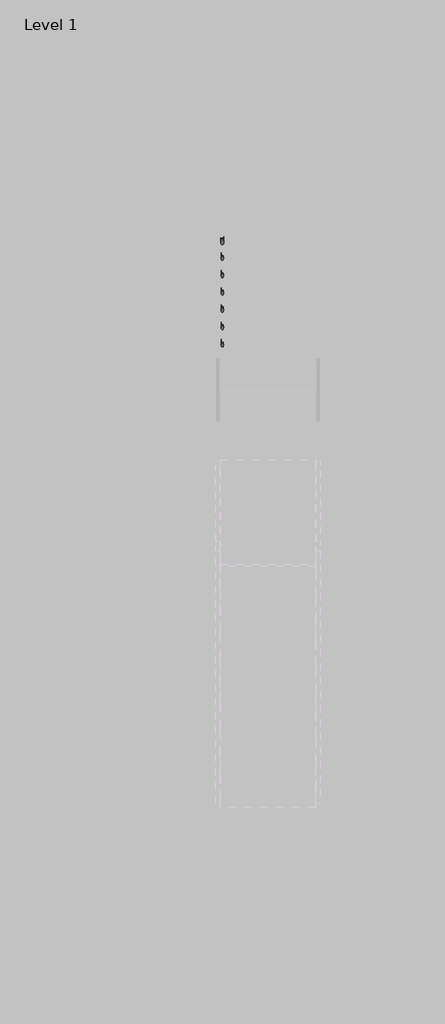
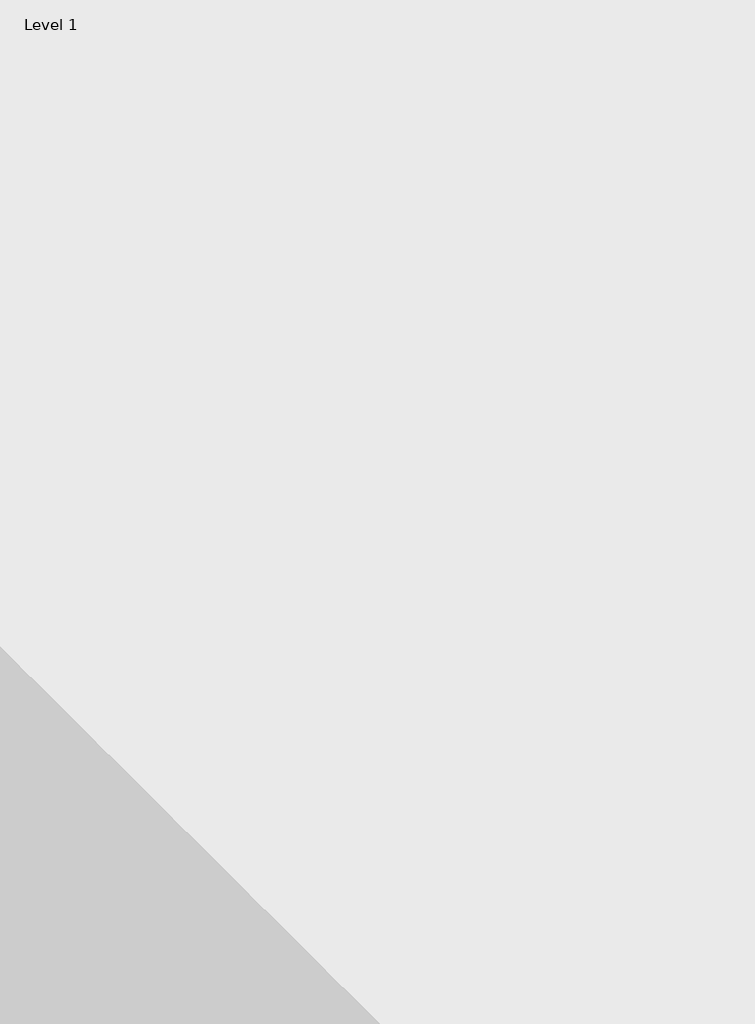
# One storey, part 23 of 27: 1 railing.
"""IFC4 building model written with IfcOpenShell, lengths in millimetres."""

from ifc_helpers import new_model, si_unit, frame, origin, place, context, project, spatial, circle_curve, ellipse_curve, element, save
from ifc_brep_helpers import plane_surface, cylinder_surface, advanced_brep

model = new_model("IFC4")

# Units and contexts
model_context = context("Model", 3, world=origin())
ifc_project = project(units=[si_unit("LENGTHUNIT", "METRE", prefix="MILLI")], contexts=[model_context])

# Site, building, storey
site = spatial("IfcSite", under=ifc_project)
building = spatial("IfcBuilding", under=site)
storey = spatial("IfcBuildingStorey", under=building, Name="Level 1", Elevation=0.0)

# Railing
placement = place(None, origin())
element("IfcRailing", 1, ObjectType="900mm Pipe", at=placement, inside=storey, context=model_context, shape_type="AdvancedBrep", body=[
    advanced_brep(
    [(2574.0567657, 6000.5392059, 1049.1094102), (2614.0567657, 6000.5392059, 1049.1094102), (2574.0567657, 3244.779188, 2780.0), (2614.0567657, 3244.779188, 2780.0), (2574.0567657, 2319.779188, 2780.0), (2614.0567657, 2319.779188, 2780.0), (2574.0567657, 2039.9015087, 2955.790939), (2614.0567657, 2039.9015087, 2955.790939), (2574.0567657, -699.4607941, 4676.3821375), (2614.0567657, -699.4607941, 4676.3821375)],
    [
        (0, 1, ellipse_curve(frame((2594.0567657, 6000.5392059, 1049.1094102), z_axis=(0.0, 1.0, 0.0), x_axis=(0.0, 0.0, -1.0)), 23.6178625, 20.0)),
        (1, 0, ellipse_curve(frame((2594.0567657, 6000.5392059, 1049.1094102), z_axis=(0.0, 1.0, 0.0), x_axis=(0.0, 0.0, -1.0)), 23.6178625, 20.0)),
        (0, 2),
        (2, 3, ellipse_curve(frame((2594.0567657, 3244.779188, 2780.0), z_axis=(0.0, 0.9609413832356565, -0.2767519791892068), x_axis=(0.0, -0.2767519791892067, -0.9609413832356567)), 20.812924, 20.0)),
        (3, 1),
        (3, 2, ellipse_curve(frame((2594.0567657, 3244.779188, 2780.0), z_axis=(0.0, 0.9609413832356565, -0.2767519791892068), x_axis=(0.0, -0.2767519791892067, -0.9609413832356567)), 20.812924, 20.0)),
        (2, 4),
        (4, 5, ellipse_curve(frame((2594.0567657, 2319.779188, 2780.0), z_axis=(0.0, 0.9609413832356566, -0.2767519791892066), x_axis=(0.0, 0.2767519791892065, 0.9609413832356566)), 20.812924, 20.0)),
        (5, 3),
        (5, 4, ellipse_curve(frame((2594.0567657, 2319.779188, 2780.0), z_axis=(0.0, 0.9609413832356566, -0.2767519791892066), x_axis=(0.0, 0.2767519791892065, 0.9609413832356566)), 20.812924, 20.0)),
        (4, 6),
        (6, 7, circle_curve(frame((2594.0567657, 2039.9015087, 2955.790939), z_axis=(0.0, 0.846816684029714, -0.5318848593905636), x_axis=(1.0, 0.0, 0.0)), 20.0)),
        (7, 5),
        (7, 6, circle_curve(frame((2594.0567657, 2039.9015087, 2955.790939), z_axis=(0.0, 0.846816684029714, -0.5318848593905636), x_axis=(1.0, 0.0, 0.0)), 20.0)),
        (8, 9, ellipse_curve(frame((2594.0567657, -699.4607941, 4676.3821375), z_axis=(0.0, -1.0, 0.0), x_axis=(0.0, 0.0, -1.0)), 23.6178625, 20.0)),
        (9, 8, ellipse_curve(frame((2594.0567657, -699.4607941, 4676.3821375), z_axis=(0.0, -1.0, 0.0), x_axis=(0.0, 0.0, -1.0)), 23.6178625, 20.0)),
        (6, 8),
        (9, 7),
    ],
    [
        plane_surface(frame((2594.0567657, 6000.5392059, 1072.7272727), z_axis=(0.0, 1.0, 0.0), x_axis=(0.0, 0.0, -1.0))),
        cylinder_surface(frame((2594.0567657, 5989.9015087, 1055.790939), z_axis=(0.0, 0.8468166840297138, -0.5318848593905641), x_axis=(1.0, 0.0, 0.0)), 20.0),
        cylinder_surface(frame((2594.0567657, 3250.5392059, 2780.0), z_axis=(0.0, 1.0, 0.0), x_axis=(1.0, 0.0, 0.0)), 20.0),
        cylinder_surface(frame((2594.0567657, 2314.9015087, 2783.0636663), z_axis=(0.0, 0.846816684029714, -0.5318848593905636), x_axis=(1.0, 0.0, 0.0)), 20.0),
        plane_surface(frame((2594.0567657, -699.4607941, 4700.0), z_axis=(0.0, -1.0, 0.0), x_axis=(0.0, 0.0, -1.0))),
        cylinder_surface(frame((2594.0567657, 2039.9015087, 2955.790939), z_axis=(0.0, 0.8468166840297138, -0.5318848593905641), x_axis=(1.0, 0.0, 0.0)), 20.0),
    ],
    [
        (0, [[1, 2]]),
        (1, [[-1, 3, 4, 5]]),
        (1, [[-2, -5, 6, -3]]),
        (2, [[-4, 7, 8, 9]]),
        (2, [[-6, -9, 10, -7]]),
        (3, [[-8, 11, 12, 13]]),
        (3, [[-10, -13, 14, -11]]),
        (4, [[15, 16]]),
        (5, [[-12, 17, -16, 18]]),
        (5, [[-14, -18, -15, -17]]),
    ],
),
    advanced_brep(
    [(2609.0567657, 6000.5392059, 930.0138759), (2579.0567657, 6000.5392059, 930.0138759), (2609.0567657, 3250.5392059, 2657.2866031), (2579.0567657, 3250.5392059, 2657.2866031)],
    [
        (0, 1, ellipse_curve(frame((2594.0567657, 6000.5392059, 930.0138759), z_axis=(0.0, 1.0, 0.0), x_axis=(0.0, 0.0, -1.0)), 17.7133969, 15.0)),
        (1, 0, ellipse_curve(frame((2594.0567657, 6000.5392059, 930.0138759), z_axis=(0.0, 1.0, 0.0), x_axis=(0.0, 0.0, -1.0)), 17.7133969, 15.0)),
        (2, 3, ellipse_curve(frame((2594.0567657, 3250.5392059, 2657.2866031), z_axis=(0.0, -1.0, 0.0), x_axis=(0.0, 0.0, -1.0)), 17.7133969, 15.0)),
        (3, 2, ellipse_curve(frame((2594.0567657, 3250.5392059, 2657.2866031), z_axis=(0.0, -1.0, 0.0), x_axis=(0.0, 0.0, -1.0)), 17.7133969, 15.0)),
        (0, 2),
        (3, 1),
    ],
    [
        plane_surface(frame((2594.0567657, 6000.5392059, 947.7272727), z_axis=(0.0, 1.0, 0.0), x_axis=(0.0, 0.0, -1.0))),
        plane_surface(frame((2594.0567657, 3250.5392059, 2675.0), z_axis=(0.0, -1.0, 0.0), x_axis=(0.0, 0.0, -1.0))),
        cylinder_surface(frame((2594.0567657, 5992.560933, 935.0250225), z_axis=(0.0, 0.8468166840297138, -0.5318848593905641), x_axis=(-1.0, 0.0, 0.0)), 15.0),
    ],
    [
        (0, [[1, 2]]),
        (1, [[3, 4]]),
        (2, [[-1, 5, -4, 6]]),
        (2, [[-2, -6, -3, -5]]),
    ],
),
    advanced_brep(
    [(2609.0567657, 3250.5392059, 2660.0), (2579.0567657, 3250.5392059, 2660.0), (2609.0567657, 2321.2191925, 2660.0), (2579.0567657, 2321.2191925, 2660.0), (2609.0567657, 2050.5392059, 2830.0138759), (2579.0567657, 2050.5392059, 2830.0138759)],
    [
        (0, 1, circle_curve(frame((2594.0567657, 3250.5392059, 2660.0), z_axis=(0.0, 1.0, 0.0), x_axis=(-1.0, 0.0, 0.0)), 15.0)),
        (1, 0, circle_curve(frame((2594.0567657, 3250.5392059, 2660.0), z_axis=(0.0, 1.0, 0.0), x_axis=(-1.0, 0.0, 0.0)), 15.0)),
        (0, 2),
        (2, 3, ellipse_curve(frame((2594.0567657, 2321.2191925, 2660.0), z_axis=(0.0, 0.9609413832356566, -0.2767519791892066), x_axis=(0.0, 0.27675197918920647, 0.9609413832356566)), 15.609693, 15.0)),
        (3, 1),
        (3, 2, ellipse_curve(frame((2594.0567657, 2321.2191925, 2660.0), z_axis=(0.0, 0.9609413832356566, -0.2767519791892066), x_axis=(0.0, 0.27675197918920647, 0.9609413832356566)), 15.609693, 15.0)),
        (4, 5, ellipse_curve(frame((2594.0567657, 2050.5392059, 2830.0138759), z_axis=(0.0, -1.0, 0.0), x_axis=(0.0, 0.0, -1.0)), 17.7133969, 15.0)),
        (5, 4, ellipse_curve(frame((2594.0567657, 2050.5392059, 2830.0138759), z_axis=(0.0, -1.0, 0.0), x_axis=(0.0, 0.0, -1.0)), 17.7133969, 15.0)),
        (2, 4),
        (5, 3),
    ],
    [
        plane_surface(frame((2594.0567657, 3250.5392059, 2675.0), z_axis=(0.0, 1.0, 0.0), x_axis=(0.0, 0.0, -1.0))),
        cylinder_surface(frame((2594.0567657, 3250.5392059, 2660.0), z_axis=(0.0, 1.0, 0.0), x_axis=(-1.0, 0.0, 0.0)), 15.0),
        plane_surface(frame((2594.0567657, 2050.5392059, 2847.7272727), z_axis=(0.0, -1.0, 0.0), x_axis=(0.0, 0.0, -1.0))),
        cylinder_surface(frame((2594.0567657, 2317.560933, 2662.2977497), z_axis=(0.0, 0.846816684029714, -0.5318848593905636), x_axis=(-1.0, 0.0, 0.0)), 15.0),
    ],
    [
        (0, [[1, 2]]),
        (1, [[-1, 3, 4, 5]]),
        (1, [[-2, -5, 6, -3]]),
        (2, [[7, 8]]),
        (3, [[-4, 9, -8, 10]]),
        (3, [[-6, -10, -7, -9]]),
    ],
),
    advanced_brep(
    [(2609.0567657, 2050.5392059, 2830.0138759), (2579.0567657, 2050.5392059, 2830.0138759), (2609.0567657, -699.4607941, 4557.2866031), (2579.0567657, -699.4607941, 4557.2866031)],
    [
        (0, 1, ellipse_curve(frame((2594.0567657, 2050.5392059, 2830.0138759), z_axis=(0.0, 1.0, 0.0), x_axis=(0.0, 0.0, -1.0)), 17.7133969, 15.0)),
        (1, 0, ellipse_curve(frame((2594.0567657, 2050.5392059, 2830.0138759), z_axis=(0.0, 1.0, 0.0), x_axis=(0.0, 0.0, -1.0)), 17.7133969, 15.0)),
        (2, 3, ellipse_curve(frame((2594.0567657, -699.4607941, 4557.2866031), z_axis=(0.0, -1.0, 0.0), x_axis=(0.0, 0.0, -1.0)), 17.7133969, 15.0)),
        (3, 2, ellipse_curve(frame((2594.0567657, -699.4607941, 4557.2866031), z_axis=(0.0, -1.0, 0.0), x_axis=(0.0, 0.0, -1.0)), 17.7133969, 15.0)),
        (0, 2),
        (3, 1),
    ],
    [
        plane_surface(frame((2594.0567657, 2050.5392059, 2847.7272727), z_axis=(0.0, 1.0, 0.0), x_axis=(0.0, 0.0, -1.0))),
        plane_surface(frame((2594.0567657, -699.4607941, 4575.0), z_axis=(0.0, -1.0, 0.0), x_axis=(0.0, 0.0, -1.0))),
        cylinder_surface(frame((2594.0567657, 2042.560933, 2835.0250225), z_axis=(0.0, 0.8468166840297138, -0.531884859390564), x_axis=(-1.0, 0.0, 0.0)), 15.0),
    ],
    [
        (0, [[1, 2]]),
        (1, [[3, 4]]),
        (2, [[-1, 5, -4, 6]]),
        (2, [[-2, -6, -3, -5]]),
    ],
),
    advanced_brep(
    [(2609.0567657, 6000.5392059, 805.0138759), (2579.0567657, 6000.5392059, 805.0138759), (2609.0567657, 3250.5392059, 2532.2866031), (2579.0567657, 3250.5392059, 2532.2866031)],
    [
        (0, 1, ellipse_curve(frame((2594.0567657, 6000.5392059, 805.0138759), z_axis=(0.0, 1.0, 0.0), x_axis=(0.0, 0.0, -1.0)), 17.7133969, 15.0)),
        (1, 0, ellipse_curve(frame((2594.0567657, 6000.5392059, 805.0138759), z_axis=(0.0, 1.0, 0.0), x_axis=(0.0, 0.0, -1.0)), 17.7133969, 15.0)),
        (2, 3, ellipse_curve(frame((2594.0567657, 3250.5392059, 2532.2866031), z_axis=(0.0, -1.0, 0.0), x_axis=(0.0, 0.0, -1.0)), 17.7133969, 15.0)),
        (3, 2, ellipse_curve(frame((2594.0567657, 3250.5392059, 2532.2866031), z_axis=(0.0, -1.0, 0.0), x_axis=(0.0, 0.0, -1.0)), 17.7133969, 15.0)),
        (0, 2),
        (3, 1),
    ],
    [
        plane_surface(frame((2594.0567657, 6000.5392059, 822.7272727), z_axis=(0.0, 1.0, 0.0), x_axis=(0.0, 0.0, -1.0))),
        plane_surface(frame((2594.0567657, 3250.5392059, 2550.0), z_axis=(0.0, -1.0, 0.0), x_axis=(0.0, 0.0, -1.0))),
        cylinder_surface(frame((2594.0567657, 5992.560933, 810.0250225), z_axis=(0.0, 0.8468166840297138, -0.5318848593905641), x_axis=(-1.0, 0.0, 0.0)), 15.0),
    ],
    [
        (0, [[1, 2]]),
        (1, [[3, 4]]),
        (2, [[-1, 5, -4, 6]]),
        (2, [[-2, -6, -3, -5]]),
    ],
),
    advanced_brep(
    [(2609.0567657, 3250.5392059, 2535.0), (2579.0567657, 3250.5392059, 2535.0), (2609.0567657, 2321.2191925, 2535.0), (2579.0567657, 2321.2191925, 2535.0), (2609.0567657, 2050.5392059, 2705.0138759), (2579.0567657, 2050.5392059, 2705.0138759)],
    [
        (0, 1, circle_curve(frame((2594.0567657, 3250.5392059, 2535.0), z_axis=(0.0, 1.0, 0.0), x_axis=(-1.0, 0.0, 0.0)), 15.0)),
        (1, 0, circle_curve(frame((2594.0567657, 3250.5392059, 2535.0), z_axis=(0.0, 1.0, 0.0), x_axis=(-1.0, 0.0, 0.0)), 15.0)),
        (0, 2),
        (2, 3, ellipse_curve(frame((2594.0567657, 2321.2191925, 2535.0), z_axis=(0.0, 0.9609413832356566, -0.2767519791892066), x_axis=(0.0, 0.27675197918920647, 0.9609413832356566)), 15.609693, 15.0)),
        (3, 1),
        (3, 2, ellipse_curve(frame((2594.0567657, 2321.2191925, 2535.0), z_axis=(0.0, 0.9609413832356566, -0.2767519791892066), x_axis=(0.0, 0.27675197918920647, 0.9609413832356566)), 15.609693, 15.0)),
        (4, 5, ellipse_curve(frame((2594.0567657, 2050.5392059, 2705.0138759), z_axis=(0.0, -1.0, 0.0), x_axis=(0.0, 0.0, -1.0)), 17.7133969, 15.0)),
        (5, 4, ellipse_curve(frame((2594.0567657, 2050.5392059, 2705.0138759), z_axis=(0.0, -1.0, 0.0), x_axis=(0.0, 0.0, -1.0)), 17.7133969, 15.0)),
        (2, 4),
        (5, 3),
    ],
    [
        plane_surface(frame((2594.0567657, 3250.5392059, 2550.0), z_axis=(0.0, 1.0, 0.0), x_axis=(0.0, 0.0, -1.0))),
        cylinder_surface(frame((2594.0567657, 3250.5392059, 2535.0), z_axis=(0.0, 1.0, 0.0), x_axis=(-1.0, 0.0, 0.0)), 15.0),
        plane_surface(frame((2594.0567657, 2050.5392059, 2722.7272727), z_axis=(0.0, -1.0, 0.0), x_axis=(0.0, 0.0, -1.0))),
        cylinder_surface(frame((2594.0567657, 2317.560933, 2537.2977497), z_axis=(0.0, 0.846816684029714, -0.5318848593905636), x_axis=(-1.0, 0.0, 0.0)), 15.0),
    ],
    [
        (0, [[1, 2]]),
        (1, [[-1, 3, 4, 5]]),
        (1, [[-2, -5, 6, -3]]),
        (2, [[7, 8]]),
        (3, [[-4, 9, -8, 10]]),
        (3, [[-6, -10, -7, -9]]),
    ],
),
    advanced_brep(
    [(2609.0567657, 2050.5392059, 2705.0138759), (2579.0567657, 2050.5392059, 2705.0138759), (2609.0567657, -699.4607941, 4432.2866031), (2579.0567657, -699.4607941, 4432.2866031)],
    [
        (0, 1, ellipse_curve(frame((2594.0567657, 2050.5392059, 2705.0138759), z_axis=(0.0, 1.0, 0.0), x_axis=(0.0, 0.0, -1.0)), 17.7133969, 15.0)),
        (1, 0, ellipse_curve(frame((2594.0567657, 2050.5392059, 2705.0138759), z_axis=(0.0, 1.0, 0.0), x_axis=(0.0, 0.0, -1.0)), 17.7133969, 15.0)),
        (2, 3, ellipse_curve(frame((2594.0567657, -699.4607941, 4432.2866031), z_axis=(0.0, -1.0, 0.0), x_axis=(0.0, 0.0, -1.0)), 17.7133969, 15.0)),
        (3, 2, ellipse_curve(frame((2594.0567657, -699.4607941, 4432.2866031), z_axis=(0.0, -1.0, 0.0), x_axis=(0.0, 0.0, -1.0)), 17.7133969, 15.0)),
        (0, 2),
        (3, 1),
    ],
    [
        plane_surface(frame((2594.0567657, 2050.5392059, 2722.7272727), z_axis=(0.0, 1.0, 0.0), x_axis=(0.0, 0.0, -1.0))),
        plane_surface(frame((2594.0567657, -699.4607941, 4450.0), z_axis=(0.0, -1.0, 0.0), x_axis=(0.0, 0.0, -1.0))),
        cylinder_surface(frame((2594.0567657, 2042.560933, 2710.0250225), z_axis=(0.0, 0.8468166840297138, -0.531884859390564), x_axis=(-1.0, 0.0, 0.0)), 15.0),
    ],
    [
        (0, [[1, 2]]),
        (1, [[3, 4]]),
        (2, [[-1, 5, -4, 6]]),
        (2, [[-2, -6, -3, -5]]),
    ],
),
    advanced_brep(
    [(2609.0567657, 6000.5392059, 680.0138759), (2579.0567657, 6000.5392059, 680.0138759), (2609.0567657, 3250.5392059, 2407.2866031), (2579.0567657, 3250.5392059, 2407.2866031)],
    [
        (0, 1, ellipse_curve(frame((2594.0567657, 6000.5392059, 680.0138759), z_axis=(0.0, 1.0, 0.0), x_axis=(0.0, 0.0, -1.0)), 17.7133969, 15.0)),
        (1, 0, ellipse_curve(frame((2594.0567657, 6000.5392059, 680.0138759), z_axis=(0.0, 1.0, 0.0), x_axis=(0.0, 0.0, -1.0)), 17.7133969, 15.0)),
        (2, 3, ellipse_curve(frame((2594.0567657, 3250.5392059, 2407.2866031), z_axis=(0.0, -1.0, 0.0), x_axis=(0.0, 0.0, -1.0)), 17.7133969, 15.0)),
        (3, 2, ellipse_curve(frame((2594.0567657, 3250.5392059, 2407.2866031), z_axis=(0.0, -1.0, 0.0), x_axis=(0.0, 0.0, -1.0)), 17.7133969, 15.0)),
        (0, 2),
        (3, 1),
    ],
    [
        plane_surface(frame((2594.0567657, 6000.5392059, 697.7272727), z_axis=(0.0, 1.0, 0.0), x_axis=(0.0, 0.0, -1.0))),
        plane_surface(frame((2594.0567657, 3250.5392059, 2425.0), z_axis=(0.0, -1.0, 0.0), x_axis=(0.0, 0.0, -1.0))),
        cylinder_surface(frame((2594.0567657, 5992.560933, 685.0250225), z_axis=(0.0, 0.8468166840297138, -0.5318848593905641), x_axis=(-1.0, 0.0, 0.0)), 15.0),
    ],
    [
        (0, [[1, 2]]),
        (1, [[3, 4]]),
        (2, [[-1, 5, -4, 6]]),
        (2, [[-2, -6, -3, -5]]),
    ],
),
    advanced_brep(
    [(2609.0567657, 3250.5392059, 2410.0), (2579.0567657, 3250.5392059, 2410.0), (2609.0567657, 2321.2191925, 2410.0), (2579.0567657, 2321.2191925, 2410.0), (2609.0567657, 2050.5392059, 2580.0138759), (2579.0567657, 2050.5392059, 2580.0138759)],
    [
        (0, 1, circle_curve(frame((2594.0567657, 3250.5392059, 2410.0), z_axis=(0.0, 1.0, 0.0), x_axis=(-1.0, 0.0, 0.0)), 15.0)),
        (1, 0, circle_curve(frame((2594.0567657, 3250.5392059, 2410.0), z_axis=(0.0, 1.0, 0.0), x_axis=(-1.0, 0.0, 0.0)), 15.0)),
        (0, 2),
        (2, 3, ellipse_curve(frame((2594.0567657, 2321.2191925, 2410.0), z_axis=(0.0, 0.9609413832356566, -0.2767519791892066), x_axis=(0.0, 0.27675197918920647, 0.9609413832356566)), 15.609693, 15.0)),
        (3, 1),
        (3, 2, ellipse_curve(frame((2594.0567657, 2321.2191925, 2410.0), z_axis=(0.0, 0.9609413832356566, -0.2767519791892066), x_axis=(0.0, 0.27675197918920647, 0.9609413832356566)), 15.609693, 15.0)),
        (4, 5, ellipse_curve(frame((2594.0567657, 2050.5392059, 2580.0138759), z_axis=(0.0, -1.0, 0.0), x_axis=(0.0, 0.0, -1.0)), 17.7133969, 15.0)),
        (5, 4, ellipse_curve(frame((2594.0567657, 2050.5392059, 2580.0138759), z_axis=(0.0, -1.0, 0.0), x_axis=(0.0, 0.0, -1.0)), 17.7133969, 15.0)),
        (2, 4),
        (5, 3),
    ],
    [
        plane_surface(frame((2594.0567657, 3250.5392059, 2425.0), z_axis=(0.0, 1.0, 0.0), x_axis=(0.0, 0.0, -1.0))),
        cylinder_surface(frame((2594.0567657, 3250.5392059, 2410.0), z_axis=(0.0, 1.0, 0.0), x_axis=(-1.0, 0.0, 0.0)), 15.0),
        plane_surface(frame((2594.0567657, 2050.5392059, 2597.7272727), z_axis=(0.0, -1.0, 0.0), x_axis=(0.0, 0.0, -1.0))),
        cylinder_surface(frame((2594.0567657, 2317.560933, 2412.2977497), z_axis=(0.0, 0.846816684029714, -0.5318848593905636), x_axis=(-1.0, 0.0, 0.0)), 15.0),
    ],
    [
        (0, [[1, 2]]),
        (1, [[-1, 3, 4, 5]]),
        (1, [[-2, -5, 6, -3]]),
        (2, [[7, 8]]),
        (3, [[-4, 9, -8, 10]]),
        (3, [[-6, -10, -7, -9]]),
    ],
),
    advanced_brep(
    [(2609.0567657, 2050.5392059, 2580.0138759), (2579.0567657, 2050.5392059, 2580.0138759), (2609.0567657, -699.4607941, 4307.2866031), (2579.0567657, -699.4607941, 4307.2866031)],
    [
        (0, 1, ellipse_curve(frame((2594.0567657, 2050.5392059, 2580.0138759), z_axis=(0.0, 1.0, 0.0), x_axis=(0.0, 0.0, -1.0)), 17.7133969, 15.0)),
        (1, 0, ellipse_curve(frame((2594.0567657, 2050.5392059, 2580.0138759), z_axis=(0.0, 1.0, 0.0), x_axis=(0.0, 0.0, -1.0)), 17.7133969, 15.0)),
        (2, 3, ellipse_curve(frame((2594.0567657, -699.4607941, 4307.2866031), z_axis=(0.0, -1.0, 0.0), x_axis=(0.0, 0.0, -1.0)), 17.7133969, 15.0)),
        (3, 2, ellipse_curve(frame((2594.0567657, -699.4607941, 4307.2866031), z_axis=(0.0, -1.0, 0.0), x_axis=(0.0, 0.0, -1.0)), 17.7133969, 15.0)),
        (0, 2),
        (3, 1),
    ],
    [
        plane_surface(frame((2594.0567657, 2050.5392059, 2597.7272727), z_axis=(0.0, 1.0, 0.0), x_axis=(0.0, 0.0, -1.0))),
        plane_surface(frame((2594.0567657, -699.4607941, 4325.0), z_axis=(0.0, -1.0, 0.0), x_axis=(0.0, 0.0, -1.0))),
        cylinder_surface(frame((2594.0567657, 2042.560933, 2585.0250225), z_axis=(0.0, 0.8468166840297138, -0.531884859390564), x_axis=(-1.0, 0.0, 0.0)), 15.0),
    ],
    [
        (0, [[1, 2]]),
        (1, [[3, 4]]),
        (2, [[-1, 5, -4, 6]]),
        (2, [[-2, -6, -3, -5]]),
    ],
),
    advanced_brep(
    [(2609.0567657, 6000.5392059, 555.0138759), (2579.0567657, 6000.5392059, 555.0138759), (2609.0567657, 3250.5392059, 2282.2866031), (2579.0567657, 3250.5392059, 2282.2866031)],
    [
        (0, 1, ellipse_curve(frame((2594.0567657, 6000.5392059, 555.0138759), z_axis=(0.0, 1.0, 0.0), x_axis=(0.0, 0.0, -1.0)), 17.7133969, 15.0)),
        (1, 0, ellipse_curve(frame((2594.0567657, 6000.5392059, 555.0138759), z_axis=(0.0, 1.0, 0.0), x_axis=(0.0, 0.0, -1.0)), 17.7133969, 15.0)),
        (2, 3, ellipse_curve(frame((2594.0567657, 3250.5392059, 2282.2866031), z_axis=(0.0, -1.0, 0.0), x_axis=(0.0, 0.0, -1.0)), 17.7133969, 15.0)),
        (3, 2, ellipse_curve(frame((2594.0567657, 3250.5392059, 2282.2866031), z_axis=(0.0, -1.0, 0.0), x_axis=(0.0, 0.0, -1.0)), 17.7133969, 15.0)),
        (0, 2),
        (3, 1),
    ],
    [
        plane_surface(frame((2594.0567657, 6000.5392059, 572.7272727), z_axis=(0.0, 1.0, 0.0), x_axis=(0.0, 0.0, -1.0))),
        plane_surface(frame((2594.0567657, 3250.5392059, 2300.0), z_axis=(0.0, -1.0, 0.0), x_axis=(0.0, 0.0, -1.0))),
        cylinder_surface(frame((2594.0567657, 5992.560933, 560.0250225), z_axis=(0.0, 0.8468166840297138, -0.5318848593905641), x_axis=(-1.0, 0.0, 0.0)), 15.0),
    ],
    [
        (0, [[1, 2]]),
        (1, [[3, 4]]),
        (2, [[-1, 5, -4, 6]]),
        (2, [[-2, -6, -3, -5]]),
    ],
),
    advanced_brep(
    [(2609.0567657, 3250.5392059, 2285.0), (2579.0567657, 3250.5392059, 2285.0), (2609.0567657, 2321.2191925, 2285.0), (2579.0567657, 2321.2191925, 2285.0), (2609.0567657, 2050.5392059, 2455.0138759), (2579.0567657, 2050.5392059, 2455.0138759)],
    [
        (0, 1, circle_curve(frame((2594.0567657, 3250.5392059, 2285.0), z_axis=(0.0, 1.0, 0.0), x_axis=(-1.0, 0.0, 0.0)), 15.0)),
        (1, 0, circle_curve(frame((2594.0567657, 3250.5392059, 2285.0), z_axis=(0.0, 1.0, 0.0), x_axis=(-1.0, 0.0, 0.0)), 15.0)),
        (0, 2),
        (2, 3, ellipse_curve(frame((2594.0567657, 2321.2191925, 2285.0), z_axis=(0.0, 0.9609413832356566, -0.2767519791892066), x_axis=(0.0, 0.27675197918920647, 0.9609413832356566)), 15.609693, 15.0)),
        (3, 1),
        (3, 2, ellipse_curve(frame((2594.0567657, 2321.2191925, 2285.0), z_axis=(0.0, 0.9609413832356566, -0.2767519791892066), x_axis=(0.0, 0.27675197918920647, 0.9609413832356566)), 15.609693, 15.0)),
        (4, 5, ellipse_curve(frame((2594.0567657, 2050.5392059, 2455.0138759), z_axis=(0.0, -1.0, 0.0), x_axis=(0.0, 0.0, -1.0)), 17.7133969, 15.0)),
        (5, 4, ellipse_curve(frame((2594.0567657, 2050.5392059, 2455.0138759), z_axis=(0.0, -1.0, 0.0), x_axis=(0.0, 0.0, -1.0)), 17.7133969, 15.0)),
        (2, 4),
        (5, 3),
    ],
    [
        plane_surface(frame((2594.0567657, 3250.5392059, 2300.0), z_axis=(0.0, 1.0, 0.0), x_axis=(0.0, 0.0, -1.0))),
        cylinder_surface(frame((2594.0567657, 3250.5392059, 2285.0), z_axis=(0.0, 1.0, 0.0), x_axis=(-1.0, 0.0, 0.0)), 15.0),
        plane_surface(frame((2594.0567657, 2050.5392059, 2472.7272727), z_axis=(0.0, -1.0, 0.0), x_axis=(0.0, 0.0, -1.0))),
        cylinder_surface(frame((2594.0567657, 2317.560933, 2287.2977497), z_axis=(0.0, 0.846816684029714, -0.5318848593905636), x_axis=(-1.0, 0.0, 0.0)), 15.0),
    ],
    [
        (0, [[1, 2]]),
        (1, [[-1, 3, 4, 5]]),
        (1, [[-2, -5, 6, -3]]),
        (2, [[7, 8]]),
        (3, [[-4, 9, -8, 10]]),
        (3, [[-6, -10, -7, -9]]),
    ],
),
    advanced_brep(
    [(2609.0567657, 2050.5392059, 2455.0138759), (2579.0567657, 2050.5392059, 2455.0138759), (2609.0567657, -699.4607941, 4182.2866031), (2579.0567657, -699.4607941, 4182.2866031)],
    [
        (0, 1, ellipse_curve(frame((2594.0567657, 2050.5392059, 2455.0138759), z_axis=(0.0, 1.0, 0.0), x_axis=(0.0, 0.0, -1.0)), 17.7133969, 15.0)),
        (1, 0, ellipse_curve(frame((2594.0567657, 2050.5392059, 2455.0138759), z_axis=(0.0, 1.0, 0.0), x_axis=(0.0, 0.0, -1.0)), 17.7133969, 15.0)),
        (2, 3, ellipse_curve(frame((2594.0567657, -699.4607941, 4182.2866031), z_axis=(0.0, -1.0, 0.0), x_axis=(0.0, 0.0, -1.0)), 17.7133969, 15.0)),
        (3, 2, ellipse_curve(frame((2594.0567657, -699.4607941, 4182.2866031), z_axis=(0.0, -1.0, 0.0), x_axis=(0.0, 0.0, -1.0)), 17.7133969, 15.0)),
        (0, 2),
        (3, 1),
    ],
    [
        plane_surface(frame((2594.0567657, 2050.5392059, 2472.7272727), z_axis=(0.0, 1.0, 0.0), x_axis=(0.0, 0.0, -1.0))),
        plane_surface(frame((2594.0567657, -699.4607941, 4200.0), z_axis=(0.0, -1.0, 0.0), x_axis=(0.0, 0.0, -1.0))),
        cylinder_surface(frame((2594.0567657, 2042.560933, 2460.0250225), z_axis=(0.0, 0.8468166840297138, -0.531884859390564), x_axis=(-1.0, 0.0, 0.0)), 15.0),
    ],
    [
        (0, [[1, 2]]),
        (1, [[3, 4]]),
        (2, [[-1, 5, -4, 6]]),
        (2, [[-2, -6, -3, -5]]),
    ],
),
    advanced_brep(
    [(2609.0567657, 6000.5392059, 430.0138759), (2579.0567657, 6000.5392059, 430.0138759), (2609.0567657, 3250.5392059, 2157.2866031), (2579.0567657, 3250.5392059, 2157.2866031)],
    [
        (0, 1, ellipse_curve(frame((2594.0567657, 6000.5392059, 430.0138759), z_axis=(0.0, 1.0, 0.0), x_axis=(0.0, 0.0, -1.0)), 17.7133969, 15.0)),
        (1, 0, ellipse_curve(frame((2594.0567657, 6000.5392059, 430.0138759), z_axis=(0.0, 1.0, 0.0), x_axis=(0.0, 0.0, -1.0)), 17.7133969, 15.0)),
        (2, 3, ellipse_curve(frame((2594.0567657, 3250.5392059, 2157.2866031), z_axis=(0.0, -1.0, 0.0), x_axis=(0.0, 0.0, -1.0)), 17.7133969, 15.0)),
        (3, 2, ellipse_curve(frame((2594.0567657, 3250.5392059, 2157.2866031), z_axis=(0.0, -1.0, 0.0), x_axis=(0.0, 0.0, -1.0)), 17.7133969, 15.0)),
        (0, 2),
        (3, 1),
    ],
    [
        plane_surface(frame((2594.0567657, 6000.5392059, 447.7272727), z_axis=(0.0, 1.0, 0.0), x_axis=(0.0, 0.0, -1.0))),
        plane_surface(frame((2594.0567657, 3250.5392059, 2175.0), z_axis=(0.0, -1.0, 0.0), x_axis=(0.0, 0.0, -1.0))),
        cylinder_surface(frame((2594.0567657, 5992.560933, 435.0250225), z_axis=(0.0, 0.8468166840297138, -0.5318848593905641), x_axis=(-1.0, 0.0, 0.0)), 15.0),
    ],
    [
        (0, [[1, 2]]),
        (1, [[3, 4]]),
        (2, [[-1, 5, -4, 6]]),
        (2, [[-2, -6, -3, -5]]),
    ],
),
    advanced_brep(
    [(2609.0567657, 3250.5392059, 2160.0), (2579.0567657, 3250.5392059, 2160.0), (2609.0567657, 2321.2191925, 2160.0), (2579.0567657, 2321.2191925, 2160.0), (2609.0567657, 2050.5392059, 2330.0138759), (2579.0567657, 2050.5392059, 2330.0138759)],
    [
        (0, 1, circle_curve(frame((2594.0567657, 3250.5392059, 2160.0), z_axis=(0.0, 1.0, 0.0), x_axis=(-1.0, 0.0, 0.0)), 15.0)),
        (1, 0, circle_curve(frame((2594.0567657, 3250.5392059, 2160.0), z_axis=(0.0, 1.0, 0.0), x_axis=(-1.0, 0.0, 0.0)), 15.0)),
        (0, 2),
        (2, 3, ellipse_curve(frame((2594.0567657, 2321.2191925, 2160.0), z_axis=(0.0, 0.9609413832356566, -0.2767519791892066), x_axis=(0.0, 0.27675197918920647, 0.9609413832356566)), 15.609693, 15.0)),
        (3, 1),
        (3, 2, ellipse_curve(frame((2594.0567657, 2321.2191925, 2160.0), z_axis=(0.0, 0.9609413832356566, -0.2767519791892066), x_axis=(0.0, 0.27675197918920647, 0.9609413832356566)), 15.609693, 15.0)),
        (4, 5, ellipse_curve(frame((2594.0567657, 2050.5392059, 2330.0138759), z_axis=(0.0, -1.0, 0.0), x_axis=(0.0, 0.0, -1.0)), 17.7133969, 15.0)),
        (5, 4, ellipse_curve(frame((2594.0567657, 2050.5392059, 2330.0138759), z_axis=(0.0, -1.0, 0.0), x_axis=(0.0, 0.0, -1.0)), 17.7133969, 15.0)),
        (2, 4),
        (5, 3),
    ],
    [
        plane_surface(frame((2594.0567657, 3250.5392059, 2175.0), z_axis=(0.0, 1.0, 0.0), x_axis=(0.0, 0.0, -1.0))),
        cylinder_surface(frame((2594.0567657, 3250.5392059, 2160.0), z_axis=(0.0, 1.0, 0.0), x_axis=(-1.0, 0.0, 0.0)), 15.0),
        plane_surface(frame((2594.0567657, 2050.5392059, 2347.7272727), z_axis=(0.0, -1.0, 0.0), x_axis=(0.0, 0.0, -1.0))),
        cylinder_surface(frame((2594.0567657, 2317.560933, 2162.2977497), z_axis=(0.0, 0.846816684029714, -0.5318848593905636), x_axis=(-1.0, 0.0, 0.0)), 15.0),
    ],
    [
        (0, [[1, 2]]),
        (1, [[-1, 3, 4, 5]]),
        (1, [[-2, -5, 6, -3]]),
        (2, [[7, 8]]),
        (3, [[-4, 9, -8, 10]]),
        (3, [[-6, -10, -7, -9]]),
    ],
),
    advanced_brep(
    [(2609.0567657, 2050.5392059, 2330.0138759), (2579.0567657, 2050.5392059, 2330.0138759), (2609.0567657, -699.4607941, 4057.2866031), (2579.0567657, -699.4607941, 4057.2866031)],
    [
        (0, 1, ellipse_curve(frame((2594.0567657, 2050.5392059, 2330.0138759), z_axis=(0.0, 1.0, 0.0), x_axis=(0.0, 0.0, -1.0)), 17.7133969, 15.0)),
        (1, 0, ellipse_curve(frame((2594.0567657, 2050.5392059, 2330.0138759), z_axis=(0.0, 1.0, 0.0), x_axis=(0.0, 0.0, -1.0)), 17.7133969, 15.0)),
        (2, 3, ellipse_curve(frame((2594.0567657, -699.4607941, 4057.2866031), z_axis=(0.0, -1.0, 0.0), x_axis=(0.0, 0.0, -1.0)), 17.7133969, 15.0)),
        (3, 2, ellipse_curve(frame((2594.0567657, -699.4607941, 4057.2866031), z_axis=(0.0, -1.0, 0.0), x_axis=(0.0, 0.0, -1.0)), 17.7133969, 15.0)),
        (0, 2),
        (3, 1),
    ],
    [
        plane_surface(frame((2594.0567657, 2050.5392059, 2347.7272727), z_axis=(0.0, 1.0, 0.0), x_axis=(0.0, 0.0, -1.0))),
        plane_surface(frame((2594.0567657, -699.4607941, 4075.0), z_axis=(0.0, -1.0, 0.0), x_axis=(0.0, 0.0, -1.0))),
        cylinder_surface(frame((2594.0567657, 2042.560933, 2335.0250225), z_axis=(0.0, 0.8468166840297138, -0.531884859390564), x_axis=(-1.0, 0.0, 0.0)), 15.0),
    ],
    [
        (0, [[1, 2]]),
        (1, [[3, 4]]),
        (2, [[-1, 5, -4, 6]]),
        (2, [[-2, -6, -3, -5]]),
    ],
),
    advanced_brep(
    [(2609.0567657, 6000.5392059, 305.0138759), (2579.0567657, 6000.5392059, 305.0138759), (2609.0567657, 3250.5392059, 2032.2866031), (2579.0567657, 3250.5392059, 2032.2866031)],
    [
        (0, 1, ellipse_curve(frame((2594.0567657, 6000.5392059, 305.0138759), z_axis=(0.0, 1.0, 0.0), x_axis=(0.0, 0.0, -1.0)), 17.7133969, 15.0)),
        (1, 0, ellipse_curve(frame((2594.0567657, 6000.5392059, 305.0138759), z_axis=(0.0, 1.0, 0.0), x_axis=(0.0, 0.0, -1.0)), 17.7133969, 15.0)),
        (2, 3, ellipse_curve(frame((2594.0567657, 3250.5392059, 2032.2866031), z_axis=(0.0, -1.0, 0.0), x_axis=(0.0, 0.0, -1.0)), 17.7133969, 15.0)),
        (3, 2, ellipse_curve(frame((2594.0567657, 3250.5392059, 2032.2866031), z_axis=(0.0, -1.0, 0.0), x_axis=(0.0, 0.0, -1.0)), 17.7133969, 15.0)),
        (0, 2),
        (3, 1),
    ],
    [
        plane_surface(frame((2594.0567657, 6000.5392059, 322.7272727), z_axis=(0.0, 1.0, 0.0), x_axis=(0.0, 0.0, -1.0))),
        plane_surface(frame((2594.0567657, 3250.5392059, 2050.0), z_axis=(0.0, -1.0, 0.0), x_axis=(0.0, 0.0, -1.0))),
        cylinder_surface(frame((2594.0567657, 5992.560933, 310.0250225), z_axis=(0.0, 0.8468166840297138, -0.5318848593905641), x_axis=(-1.0, 0.0, 0.0)), 15.0),
    ],
    [
        (0, [[1, 2]]),
        (1, [[3, 4]]),
        (2, [[-1, 5, -4, 6]]),
        (2, [[-2, -6, -3, -5]]),
    ],
),
    advanced_brep(
    [(2609.0567657, 3250.5392059, 2035.0), (2579.0567657, 3250.5392059, 2035.0), (2609.0567657, 2321.2191925, 2035.0), (2579.0567657, 2321.2191925, 2035.0), (2609.0567657, 2050.5392059, 2205.0138759), (2579.0567657, 2050.5392059, 2205.0138759)],
    [
        (0, 1, circle_curve(frame((2594.0567657, 3250.5392059, 2035.0), z_axis=(0.0, 1.0, 0.0), x_axis=(-1.0, 0.0, 0.0)), 15.0)),
        (1, 0, circle_curve(frame((2594.0567657, 3250.5392059, 2035.0), z_axis=(0.0, 1.0, 0.0), x_axis=(-1.0, 0.0, 0.0)), 15.0)),
        (0, 2),
        (2, 3, ellipse_curve(frame((2594.0567657, 2321.2191925, 2035.0), z_axis=(0.0, 0.9609413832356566, -0.2767519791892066), x_axis=(0.0, 0.27675197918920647, 0.9609413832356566)), 15.609693, 15.0)),
        (3, 1),
        (3, 2, ellipse_curve(frame((2594.0567657, 2321.2191925, 2035.0), z_axis=(0.0, 0.9609413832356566, -0.2767519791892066), x_axis=(0.0, 0.27675197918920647, 0.9609413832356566)), 15.609693, 15.0)),
        (4, 5, ellipse_curve(frame((2594.0567657, 2050.5392059, 2205.0138759), z_axis=(0.0, -1.0, 0.0), x_axis=(0.0, 0.0, -1.0)), 17.7133969, 15.0)),
        (5, 4, ellipse_curve(frame((2594.0567657, 2050.5392059, 2205.0138759), z_axis=(0.0, -1.0, 0.0), x_axis=(0.0, 0.0, -1.0)), 17.7133969, 15.0)),
        (2, 4),
        (5, 3),
    ],
    [
        plane_surface(frame((2594.0567657, 3250.5392059, 2050.0), z_axis=(0.0, 1.0, 0.0), x_axis=(0.0, 0.0, -1.0))),
        cylinder_surface(frame((2594.0567657, 3250.5392059, 2035.0), z_axis=(0.0, 1.0, 0.0), x_axis=(-1.0, 0.0, 0.0)), 15.0),
        plane_surface(frame((2594.0567657, 2050.5392059, 2222.7272727), z_axis=(0.0, -1.0, 0.0), x_axis=(0.0, 0.0, -1.0))),
        cylinder_surface(frame((2594.0567657, 2317.560933, 2037.2977497), z_axis=(0.0, 0.846816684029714, -0.5318848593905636), x_axis=(-1.0, 0.0, 0.0)), 15.0),
    ],
    [
        (0, [[1, 2]]),
        (1, [[-1, 3, 4, 5]]),
        (1, [[-2, -5, 6, -3]]),
        (2, [[7, 8]]),
        (3, [[-4, 9, -8, 10]]),
        (3, [[-6, -10, -7, -9]]),
    ],
),
    advanced_brep(
    [(2609.0567657, 2050.5392059, 2205.0138759), (2579.0567657, 2050.5392059, 2205.0138759), (2609.0567657, -699.4607941, 3932.2866031), (2579.0567657, -699.4607941, 3932.2866031)],
    [
        (0, 1, ellipse_curve(frame((2594.0567657, 2050.5392059, 2205.0138759), z_axis=(0.0, 1.0, 0.0), x_axis=(0.0, 0.0, -1.0)), 17.7133969, 15.0)),
        (1, 0, ellipse_curve(frame((2594.0567657, 2050.5392059, 2205.0138759), z_axis=(0.0, 1.0, 0.0), x_axis=(0.0, 0.0, -1.0)), 17.7133969, 15.0)),
        (2, 3, ellipse_curve(frame((2594.0567657, -699.4607941, 3932.2866031), z_axis=(0.0, -1.0, 0.0), x_axis=(0.0, 0.0, -1.0)), 17.7133969, 15.0)),
        (3, 2, ellipse_curve(frame((2594.0567657, -699.4607941, 3932.2866031), z_axis=(0.0, -1.0, 0.0), x_axis=(0.0, 0.0, -1.0)), 17.7133969, 15.0)),
        (0, 2),
        (3, 1),
    ],
    [
        plane_surface(frame((2594.0567657, 2050.5392059, 2222.7272727), z_axis=(0.0, 1.0, 0.0), x_axis=(0.0, 0.0, -1.0))),
        plane_surface(frame((2594.0567657, -699.4607941, 3950.0), z_axis=(0.0, -1.0, 0.0), x_axis=(0.0, 0.0, -1.0))),
        cylinder_surface(frame((2594.0567657, 2042.560933, 2210.0250225), z_axis=(0.0, 0.8468166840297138, -0.531884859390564), x_axis=(-1.0, 0.0, 0.0)), 15.0),
    ],
    [
        (0, [[1, 2]]),
        (1, [[3, 4]]),
        (2, [[-1, 5, -4, 6]]),
        (2, [[-2, -6, -3, -5]]),
    ],
),
    advanced_brep(
    [(2581.5567657, 50.5392059, 4181.6898948), (2581.5567657, 50.5392059, 3281.8181818), (2606.5567657, 50.5392059, 3281.8181818), (2606.5567657, 50.5392059, 4181.6898948)],
    [
        (0, 1),
        (1, 2, circle_curve(frame((2594.0567657, 50.5392059, 3281.8181818), z_axis=(0.0, 0.0, 1.0), x_axis=(1.0, 0.0, 0.0)), 12.5)),
        (2, 3),
        (3, 0, ellipse_curve(frame((2594.0567657, 50.5392059, 4181.6898948), z_axis=(0.0, -0.5318848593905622, -0.8468166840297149), x_axis=(0.0, -0.8468166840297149, 0.531884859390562)), 14.7611641, 12.5)),
        (0, 3, ellipse_curve(frame((2594.0567657, 50.5392059, 4181.6898948), z_axis=(0.0, -0.5318848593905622, -0.8468166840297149), x_axis=(0.0, -0.8468166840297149, 0.531884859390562)), 14.7611641, 12.5)),
        (2, 1, circle_curve(frame((2594.0567657, 50.5392059, 3281.8181818), z_axis=(0.0, 0.0, 1.0), x_axis=(1.0, 0.0, 0.0)), 12.5)),
    ],
    [
        cylinder_surface(frame((2594.0567657, 50.5392059, 3181.8181818), z_axis=(0.0, 0.0, 1.0), x_axis=(1.0, 0.0, 0.0)), 12.5),
        plane_surface(frame((2619.0567657, 25.5392059, 4197.3923742), z_axis=(0.0, 0.5318848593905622, 0.8468166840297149), x_axis=(-1.0, 0.0, 0.0))),
        plane_surface(frame((2619.0567657, 75.5392059, 3281.8181818), z_axis=(0.0, 0.0, -1.0), x_axis=(-1.0, 0.0, 0.0))),
    ],
    [
        (0, [[1, 2, 3, 4]]),
        (0, [[-1, 5, -3, 6]]),
        (1, [[-4, -5]]),
        (2, [[-2, -6]]),
    ],
),
    advanced_brep(
    [(2581.5567657, 1050.5392059, 3553.5907213), (2581.5567657, 1050.5392059, 2590.9090909), (2606.5567657, 1050.5392059, 2590.9090909), (2606.5567657, 1050.5392059, 3553.5907213)],
    [
        (0, 1),
        (1, 2, circle_curve(frame((2594.0567657, 1050.5392059, 2590.9090909), z_axis=(0.0, 0.0, 1.0), x_axis=(1.0, 0.0, 0.0)), 12.5)),
        (2, 3),
        (3, 0, ellipse_curve(frame((2594.0567657, 1050.5392059, 3553.5907213), z_axis=(0.0, -0.5318848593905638, -0.8468166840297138), x_axis=(0.0, -0.8468166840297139, 0.5318848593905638)), 14.7611641, 12.5)),
        (0, 3, ellipse_curve(frame((2594.0567657, 1050.5392059, 3553.5907213), z_axis=(0.0, -0.5318848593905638, -0.8468166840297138), x_axis=(0.0, -0.8468166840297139, 0.5318848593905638)), 14.7611641, 12.5)),
        (2, 1, circle_curve(frame((2594.0567657, 1050.5392059, 2590.9090909), z_axis=(0.0, 0.0, 1.0), x_axis=(1.0, 0.0, 0.0)), 12.5)),
    ],
    [
        cylinder_surface(frame((2594.0567657, 1050.5392059, 2490.9090909), z_axis=(0.0, 0.0, 1.0), x_axis=(1.0, 0.0, 0.0)), 12.5),
        plane_surface(frame((2619.0567657, 1025.5392059, 3569.2932006), z_axis=(0.0, 0.5318848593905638, 0.8468166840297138), x_axis=(-1.0, 0.0, 0.0))),
        plane_surface(frame((2619.0567657, 1075.5392059, 2590.9090909), z_axis=(0.0, 0.0, -1.0), x_axis=(-1.0, 0.0, 0.0))),
    ],
    [
        (0, [[1, 2, 3, 4]]),
        (0, [[-1, 5, -3, 6]]),
        (1, [[-4, -5]]),
        (2, [[-2, -6]]),
    ],
),
    advanced_brep(
    [(2581.5567657, 2250.5392059, 2799.871713), (2581.5567657, 2250.5392059, 1900.0), (2606.5567657, 2250.5392059, 1900.0), (2606.5567657, 2250.5392059, 2799.871713)],
    [
        (0, 1),
        (1, 2, circle_curve(frame((2594.0567657, 2250.5392059, 1900.0), z_axis=(0.0, 0.0, 1.0), x_axis=(1.0, 0.0, 0.0)), 12.5)),
        (2, 3),
        (3, 0, ellipse_curve(frame((2594.0567657, 2250.5392059, 2799.871713), z_axis=(0.0, -0.5318848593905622, -0.8468166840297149), x_axis=(0.0, -0.8468166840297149, 0.531884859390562)), 14.7611641, 12.5)),
        (0, 3, ellipse_curve(frame((2594.0567657, 2250.5392059, 2799.871713), z_axis=(0.0, -0.5318848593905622, -0.8468166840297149), x_axis=(0.0, -0.8468166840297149, 0.531884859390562)), 14.7611641, 12.5)),
        (2, 1, circle_curve(frame((2594.0567657, 2250.5392059, 1900.0), z_axis=(0.0, 0.0, 1.0), x_axis=(1.0, 0.0, 0.0)), 12.5)),
    ],
    [
        cylinder_surface(frame((2594.0567657, 2250.5392059, 1800.0), z_axis=(0.0, 0.0, 1.0), x_axis=(1.0, 0.0, 0.0)), 12.5),
        plane_surface(frame((2619.0567657, 2225.5392059, 2815.5741924), z_axis=(0.0, 0.5318848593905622, 0.8468166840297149), x_axis=(-1.0, 0.0, 0.0))),
        plane_surface(frame((2619.0567657, 2275.5392059, 1900.0), z_axis=(0.0, 0.0, -1.0), x_axis=(-1.0, 0.0, 0.0))),
    ],
    [
        (0, [[1, 2, 3, 4]]),
        (0, [[-1, 5, -3, 6]]),
        (1, [[-4, -5]]),
        (2, [[-2, -6]]),
    ],
),
    advanced_brep(
    [(2581.5567657, 4000.5392059, 2281.6898948), (2581.5567657, 4000.5392059, 1381.8181818), (2606.5567657, 4000.5392059, 1381.8181818), (2606.5567657, 4000.5392059, 2281.6898948)],
    [
        (0, 1),
        (1, 2, circle_curve(frame((2594.0567657, 4000.5392059, 1381.8181818), z_axis=(0.0, 0.0, 1.0), x_axis=(1.0, 0.0, 0.0)), 12.5)),
        (2, 3),
        (3, 0, ellipse_curve(frame((2594.0567657, 4000.5392059, 2281.6898948), z_axis=(0.0, -0.5318848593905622, -0.8468166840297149), x_axis=(0.0, -0.8468166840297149, 0.531884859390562)), 14.7611641, 12.5)),
        (0, 3, ellipse_curve(frame((2594.0567657, 4000.5392059, 2281.6898948), z_axis=(0.0, -0.5318848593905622, -0.8468166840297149), x_axis=(0.0, -0.8468166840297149, 0.531884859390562)), 14.7611641, 12.5)),
        (2, 1, circle_curve(frame((2594.0567657, 4000.5392059, 1381.8181818), z_axis=(0.0, 0.0, 1.0), x_axis=(1.0, 0.0, 0.0)), 12.5)),
    ],
    [
        cylinder_surface(frame((2594.0567657, 4000.5392059, 1281.8181818), z_axis=(0.0, 0.0, 1.0), x_axis=(1.0, 0.0, 0.0)), 12.5),
        plane_surface(frame((2619.0567657, 3975.5392059, 2297.3923742), z_axis=(0.0, 0.5318848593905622, 0.8468166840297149), x_axis=(-1.0, 0.0, 0.0))),
        plane_surface(frame((2619.0567657, 4025.5392059, 1381.8181818), z_axis=(0.0, 0.0, -1.0), x_axis=(-1.0, 0.0, 0.0))),
    ],
    [
        (0, [[1, 2, 3, 4]]),
        (0, [[-1, 5, -3, 6]]),
        (1, [[-4, -5]]),
        (2, [[-2, -6]]),
    ],
),
    advanced_brep(
    [(2581.5567657, 5000.5392059, 1653.5907213), (2581.5567657, 5000.5392059, 690.9090909), (2606.5567657, 5000.5392059, 690.9090909), (2606.5567657, 5000.5392059, 1653.5907213)],
    [
        (0, 1),
        (1, 2, circle_curve(frame((2594.0567657, 5000.5392059, 690.9090909), z_axis=(0.0, 0.0, 1.0), x_axis=(1.0, 0.0, 0.0)), 12.5)),
        (2, 3),
        (3, 0, ellipse_curve(frame((2594.0567657, 5000.5392059, 1653.5907213), z_axis=(0.0, -0.5318848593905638, -0.8468166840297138), x_axis=(0.0, -0.8468166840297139, 0.5318848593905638)), 14.7611641, 12.5)),
        (0, 3, ellipse_curve(frame((2594.0567657, 5000.5392059, 1653.5907213), z_axis=(0.0, -0.5318848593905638, -0.8468166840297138), x_axis=(0.0, -0.8468166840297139, 0.5318848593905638)), 14.7611641, 12.5)),
        (2, 1, circle_curve(frame((2594.0567657, 5000.5392059, 690.9090909), z_axis=(0.0, 0.0, 1.0), x_axis=(1.0, 0.0, 0.0)), 12.5)),
    ],
    [
        cylinder_surface(frame((2594.0567657, 5000.5392059, 590.9090909), z_axis=(0.0, 0.0, 1.0), x_axis=(1.0, 0.0, 0.0)), 12.5),
        plane_surface(frame((2619.0567657, 4975.5392059, 1669.2932006), z_axis=(0.0, 0.5318848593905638, 0.8468166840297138), x_axis=(-1.0, 0.0, 0.0))),
        plane_surface(frame((2619.0567657, 5025.5392059, 690.9090909), z_axis=(0.0, 0.0, -1.0), x_axis=(-1.0, 0.0, 0.0))),
    ],
    [
        (0, [[1, 2, 3, 4]]),
        (0, [[-1, 5, -3, 6]]),
        (1, [[-4, -5]]),
        (2, [[-2, -6]]),
    ],
),
    advanced_brep(
    [(2581.5567657, 2050.5392059, 2925.4915477), (2581.5567657, 2050.5392059, 1900.0), (2606.5567657, 2050.5392059, 1900.0), (2606.5567657, 2050.5392059, 2925.4915477)],
    [
        (0, 1),
        (1, 2, circle_curve(frame((2594.0567657, 2050.5392059, 1900.0), z_axis=(0.0, 0.0, 1.0), x_axis=(1.0, 0.0, 0.0)), 12.5)),
        (2, 3),
        (3, 0, ellipse_curve(frame((2594.0567657, 2050.5392059, 2925.4915477), z_axis=(0.0, -0.5318848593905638, -0.8468166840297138), x_axis=(0.0, -0.8468166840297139, 0.5318848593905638)), 14.7611641, 12.5)),
        (0, 3, ellipse_curve(frame((2594.0567657, 2050.5392059, 2925.4915477), z_axis=(0.0, -0.5318848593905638, -0.8468166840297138), x_axis=(0.0, -0.8468166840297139, 0.5318848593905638)), 14.7611641, 12.5)),
        (2, 1, circle_curve(frame((2594.0567657, 2050.5392059, 1900.0), z_axis=(0.0, 0.0, 1.0), x_axis=(1.0, 0.0, 0.0)), 12.5)),
    ],
    [
        cylinder_surface(frame((2594.0567657, 2050.5392059, 1800.0), z_axis=(0.0, 0.0, 1.0), x_axis=(1.0, 0.0, 0.0)), 12.5),
        plane_surface(frame((2619.0567657, 2025.5392059, 2941.1940271), z_axis=(0.0, 0.5318848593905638, 0.8468166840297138), x_axis=(-1.0, 0.0, 0.0))),
        plane_surface(frame((2619.0567657, 2075.5392059, 1900.0), z_axis=(0.0, 0.0, -1.0), x_axis=(-1.0, 0.0, 0.0))),
    ],
    [
        (0, [[1, 2, 3, 4]]),
        (0, [[-1, 5, -3, 6]]),
        (1, [[-4, -5]]),
        (2, [[-2, -6]]),
    ],
),
    advanced_brep(
    [(2581.5567657, 3250.5392059, 2752.764275), (2581.5567657, 3250.5392059, 1900.0), (2606.5567657, 3250.5392059, 1900.0), (2606.5567657, 3250.5392059, 2752.764275)],
    [
        (0, 1),
        (1, 2, circle_curve(frame((2594.0567657, 3250.5392059, 1900.0), z_axis=(0.0, 0.0, 1.0), x_axis=(1.0, 0.0, 0.0)), 12.5)),
        (2, 3),
        (3, 0, ellipse_curve(frame((2594.0567657, 3250.5392059, 2752.764275), z_axis=(0.0, -0.5318848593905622, -0.8468166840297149), x_axis=(0.0, -0.8468166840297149, 0.531884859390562)), 14.7611641, 12.5)),
        (0, 3, ellipse_curve(frame((2594.0567657, 3250.5392059, 2752.764275), z_axis=(0.0, -0.5318848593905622, -0.8468166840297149), x_axis=(0.0, -0.8468166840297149, 0.531884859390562)), 14.7611641, 12.5)),
        (2, 1, circle_curve(frame((2594.0567657, 3250.5392059, 1900.0), z_axis=(0.0, 0.0, 1.0), x_axis=(1.0, 0.0, 0.0)), 12.5)),
    ],
    [
        cylinder_surface(frame((2594.0567657, 3250.5392059, 1800.0), z_axis=(0.0, 0.0, 1.0), x_axis=(1.0, 0.0, 0.0)), 12.5),
        plane_surface(frame((2619.0567657, 3225.5392059, 2768.4667544), z_axis=(0.0, 0.5318848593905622, 0.8468166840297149), x_axis=(-1.0, 0.0, 0.0))),
        plane_surface(frame((2619.0567657, 3275.5392059, 1900.0), z_axis=(0.0, 0.0, -1.0), x_axis=(-1.0, 0.0, 0.0))),
    ],
    [
        (0, [[1, 2, 3, 4]]),
        (0, [[-1, 5, -3, 6]]),
        (1, [[-4, -5]]),
        (2, [[-2, -6]]),
    ],
),
    advanced_brep(
    [(2581.5567657, -686.9607941, 4644.9130353), (2581.5567657, -686.9607941, 3627.2727273), (2606.5567657, -686.9607941, 3627.2727273), (2606.5567657, -686.9607941, 4644.9130353)],
    [
        (0, 1),
        (1, 2, circle_curve(frame((2594.0567657, -686.9607941, 3627.2727273), z_axis=(0.0, 0.0, 1.0), x_axis=(1.0, 0.0, 0.0)), 12.5)),
        (2, 3),
        (3, 0, ellipse_curve(frame((2594.0567657, -686.9607941, 4644.9130353), z_axis=(0.0, -0.5318848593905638, -0.8468166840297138), x_axis=(0.0, -0.8468166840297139, 0.5318848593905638)), 14.7611641, 12.5)),
        (0, 3, ellipse_curve(frame((2594.0567657, -686.9607941, 4644.9130353), z_axis=(0.0, -0.5318848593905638, -0.8468166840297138), x_axis=(0.0, -0.8468166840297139, 0.5318848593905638)), 14.7611641, 12.5)),
        (2, 1, circle_curve(frame((2594.0567657, -686.9607941, 3627.2727273), z_axis=(0.0, 0.0, 1.0), x_axis=(1.0, 0.0, 0.0)), 12.5)),
    ],
    [
        cylinder_surface(frame((2594.0567657, -686.9607941, 3527.2727273), z_axis=(0.0, 0.0, 1.0), x_axis=(1.0, 0.0, 0.0)), 12.5),
        plane_surface(frame((2619.0567657, -711.9607941, 4660.6155147), z_axis=(0.0, 0.5318848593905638, 0.8468166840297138), x_axis=(-1.0, 0.0, 0.0))),
        plane_surface(frame((2619.0567657, -661.9607941, 3627.2727273), z_axis=(0.0, 0.0, -1.0), x_axis=(-1.0, 0.0, 0.0))),
    ],
    [
        (0, [[1, 2, 3, 4]]),
        (0, [[-1, 5, -3, 6]]),
        (1, [[-4, -5]]),
        (2, [[-2, -6]]),
    ],
),
    advanced_brep(
    [(2581.5567657, 5988.0392059, 1033.3427874), (2581.5567657, 5988.0392059, 172.7272727), (2606.5567657, 5988.0392059, 172.7272727), (2606.5567657, 5988.0392059, 1033.3427874)],
    [
        (0, 1),
        (1, 2, circle_curve(frame((2594.0567657, 5988.0392059, 172.7272727), z_axis=(0.0, 0.0, 1.0), x_axis=(1.0, 0.0, 0.0)), 12.5)),
        (2, 3),
        (3, 0, ellipse_curve(frame((2594.0567657, 5988.0392059, 1033.3427874), z_axis=(0.0, -0.5318848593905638, -0.8468166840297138), x_axis=(0.0, -0.8468166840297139, 0.5318848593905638)), 14.7611641, 12.5)),
        (0, 3, ellipse_curve(frame((2594.0567657, 5988.0392059, 1033.3427874), z_axis=(0.0, -0.5318848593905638, -0.8468166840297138), x_axis=(0.0, -0.8468166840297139, 0.5318848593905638)), 14.7611641, 12.5)),
        (2, 1, circle_curve(frame((2594.0567657, 5988.0392059, 172.7272727), z_axis=(0.0, 0.0, 1.0), x_axis=(1.0, 0.0, 0.0)), 12.5)),
    ],
    [
        cylinder_surface(frame((2594.0567657, 5988.0392059, 72.7272727), z_axis=(0.0, 0.0, 1.0), x_axis=(1.0, 0.0, 0.0)), 12.5),
        plane_surface(frame((2619.0567657, 5963.0392059, 1049.0452667), z_axis=(0.0, 0.5318848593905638, 0.8468166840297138), x_axis=(-1.0, 0.0, 0.0))),
        plane_surface(frame((2619.0567657, 6013.0392059, 172.7272727), z_axis=(0.0, 0.0, -1.0), x_axis=(-1.0, 0.0, 0.0))),
    ],
    [
        (0, [[1, 2, 3, 4]]),
        (0, [[-1, 5, -3, 6]]),
        (1, [[-4, -5]]),
        (2, [[-2, -6]]),
    ],
),
])

save(model, "model.ifc")
